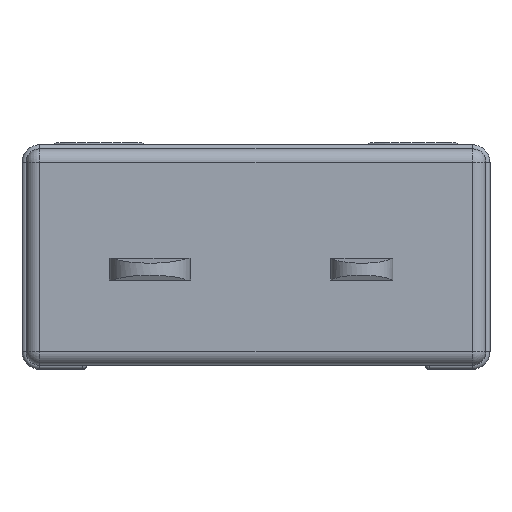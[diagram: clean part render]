
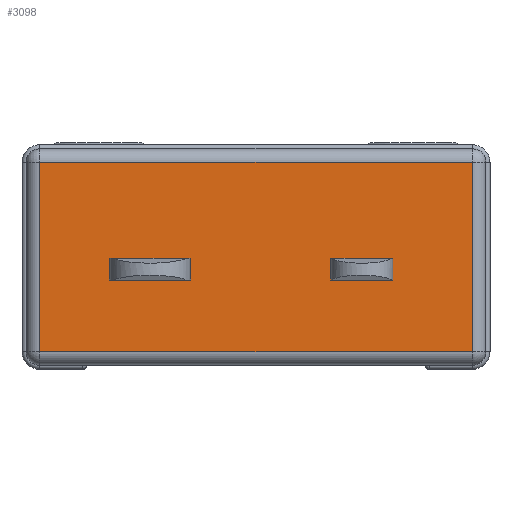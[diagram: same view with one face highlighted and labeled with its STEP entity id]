
A CAD part, front view. The second image highlights one B-rep face of the part: STEP entity #3098.
In plain terms, the highlighted planar face has unit normal (0, -1, 0).
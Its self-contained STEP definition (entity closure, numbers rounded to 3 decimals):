
#88 = EDGE_CURVE ( 'NONE', #6708, #3040, #12597, .T. ) ;
#277 = DIRECTION ( 'NONE',  ( 0., 0., 1. ) ) ;
#1279 = CARTESIAN_POINT ( 'NONE',  ( -8.5, 0., -3.5 ) ) ;
#2378 = CARTESIAN_POINT ( 'NONE',  ( -8., 0., 0. ) ) ;
#2561 = VECTOR ( 'NONE', #7995, 1000. ) ;
#2889 = VECTOR ( 'NONE', #7412, 1000. ) ;
#3040 = VERTEX_POINT ( 'NONE', #12536 ) ;
#3098 = ADVANCED_FACE ( 'NONE', ( #9536 ), #12888, .F. ) ;
#3342 = EDGE_CURVE ( 'NONE', #13397, #6614, #7053, .T. ) ;
#3851 = DIRECTION ( 'NONE',  ( 0., 1., 0. ) ) ;
#3991 = CARTESIAN_POINT ( 'NONE',  ( 8., 0., -3.5 ) ) ;
#4178 = VECTOR ( 'NONE', #13829, 1000. ) ;
#4477 = LINE ( 'NONE', #1279, #2561 ) ;
#4500 = ORIENTED_EDGE ( 'NONE', *, *, #88, .T. ) ;
#4664 = AXIS2_PLACEMENT_3D ( 'NONE', #10585, #3851, #277 ) ;
#4948 = CARTESIAN_POINT ( 'NONE',  ( -8., 0., 3.5 ) ) ;
#5545 = ORIENTED_EDGE ( 'NONE', *, *, #3342, .T. ) ;
#6614 = VERTEX_POINT ( 'NONE', #7185 ) ;
#6708 = VERTEX_POINT ( 'NONE', #4948 ) ;
#6854 = EDGE_CURVE ( 'NONE', #6614, #6708, #14202, .T. ) ;
#6927 = DIRECTION ( 'NONE',  ( 0., 0., -1. ) ) ;
#7025 = ORIENTED_EDGE ( 'NONE', *, *, #6854, .T. ) ;
#7053 = LINE ( 'NONE', #11598, #4178 ) ;
#7185 = CARTESIAN_POINT ( 'NONE',  ( 8., 0., 3.5 ) ) ;
#7412 = DIRECTION ( 'NONE',  ( -1., 0., 0. ) ) ;
#7995 = DIRECTION ( 'NONE',  ( -1., 0., 0. ) ) ;
#8740 = EDGE_LOOP ( 'NONE', ( #7025, #4500, #12564, #5545 ) ) ;
#9522 = EDGE_CURVE ( 'NONE', #13397, #3040, #4477, .T. ) ;
#9536 = FACE_OUTER_BOUND ( 'NONE', #8740, .T. ) ;
#10401 = VECTOR ( 'NONE', #6927, 1000. ) ;
#10585 = CARTESIAN_POINT ( 'NONE',  ( 0., 0., 4. ) ) ;
#11598 = CARTESIAN_POINT ( 'NONE',  ( 8., 0., 4. ) ) ;
#12536 = CARTESIAN_POINT ( 'NONE',  ( -8., 0., -3.5 ) ) ;
#12564 = ORIENTED_EDGE ( 'NONE', *, *, #9522, .F. ) ;
#12597 = LINE ( 'NONE', #2378, #10401 ) ;
#12888 = PLANE ( 'NONE',  #4664 ) ;
#13397 = VERTEX_POINT ( 'NONE', #3991 ) ;
#13829 = DIRECTION ( 'NONE',  ( 0., 0., 1. ) ) ;
#14202 = LINE ( 'NONE', #14344, #2889 ) ;
#14344 = CARTESIAN_POINT ( 'NONE',  ( -8.5, 0., 3.5 ) ) ;
